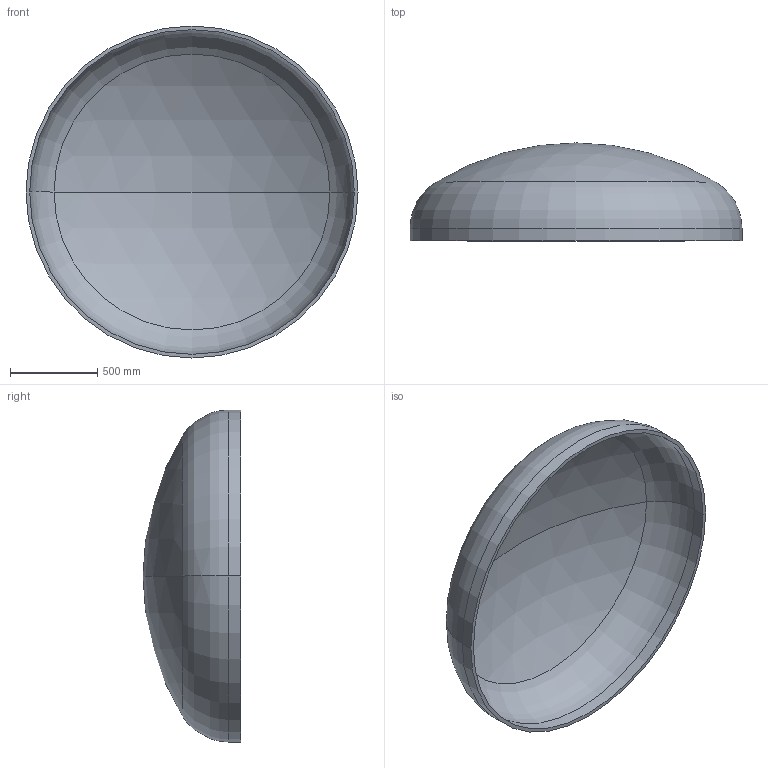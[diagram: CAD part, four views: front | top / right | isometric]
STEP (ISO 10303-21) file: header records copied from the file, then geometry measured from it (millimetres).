
FILE_DESCRIPTION (( 'STEP AP203' ), '1' );
FILE_NAME ('DIN 28013 Korbbogenform_-_Boden DIN 28013 - 1900 x 70 - I - s=21.step', '2016-07-01T12:59:34', ( '' ), ( '' ), 'SwSTEP 2.0', 'SolidWorks 2013', '' );
FILE_SCHEMA (( 'CONFIG_CONTROL_DESIGN' ));
Length unit declared in the file: millimetre
Products named in the file (1): DIN 28013 Korbbogenform_-_Boden DIN 28013 - 1900 x 70 - I - s=21
Bounding box: 1900 x 560.01 x 1900 mm (x, y, z)
Volume: 89802653.3 mm3; surface area: 8677518.3 mm2
Topology: 1 solids, 1 shells, 13 faces, 24 edges, 14 vertices
Faces by surface type: torus 4, cylinder 4, sphere 4, plane 1
Entity records: 407 total; most frequent: DIRECTION 72, CARTESIAN_POINT 52, ORIENTED_EDGE 48, AXIS2_PLACEMENT_3D 34, EDGE_CURVE 24, CIRCLE 20, EDGE_LOOP 14, VERTEX_POINT 14
